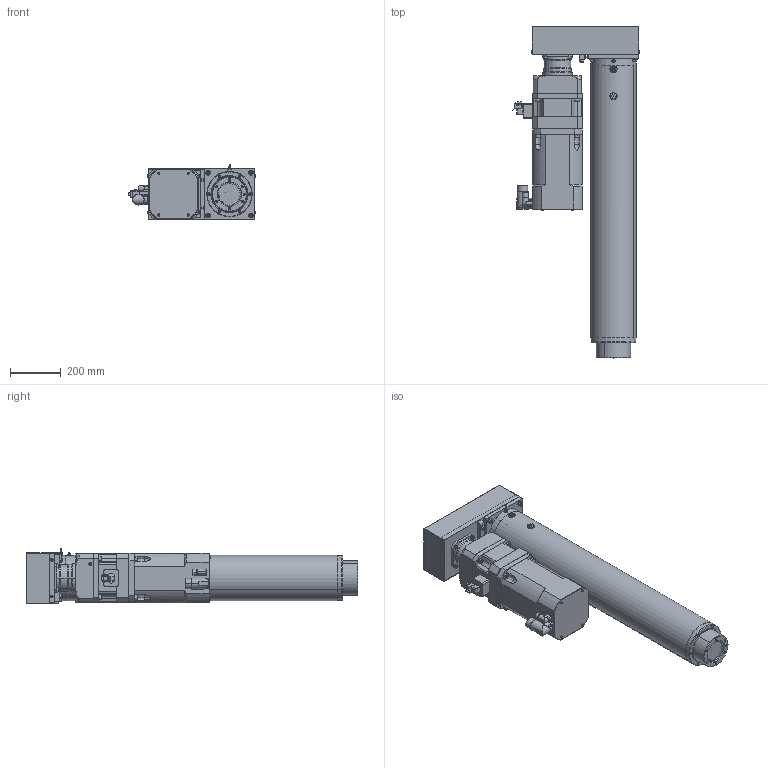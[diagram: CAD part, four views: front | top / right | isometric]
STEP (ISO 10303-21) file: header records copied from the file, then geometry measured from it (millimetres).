
FILE_DESCRIPTION (( 'STEP AP214' ), '1' );
FILE_NAME ('LN5P0600-075-025S.STEP', '2024-01-08T08:38:40', ( '' ), ( '' ), 'SwSTEP 2.0', 'SolidWorks 2021', '' );
FILE_SCHEMA (( 'AUTOMOTIVE_DESIGN' ));
Length unit declared in the file: millimetre
Products named in the file (1): LN5P0600-075-025S
Bounding box: 502.14 x 1303.5 x 216.14 mm (x, y, z)
Volume: 40416635.5 mm3; surface area: 3547708.4 mm2
Topology: 50 solids, 50 shells, 1771 faces, 4138 edges, 2485 vertices
Faces by surface type: plane 722, cylinder 626, cone 293, torus 98, bspline 30, sphere 2
Entity records: 71565 total; most frequent: CARTESIAN_POINT 10748, DIRECTION 9042, ORIENTED_EDGE 7960, EDGE_CURVE 3980, AXIS2_PLACEMENT_3D 3494, VERTEX_POINT 2485, EDGE_LOOP 2083, VECTOR 2054
